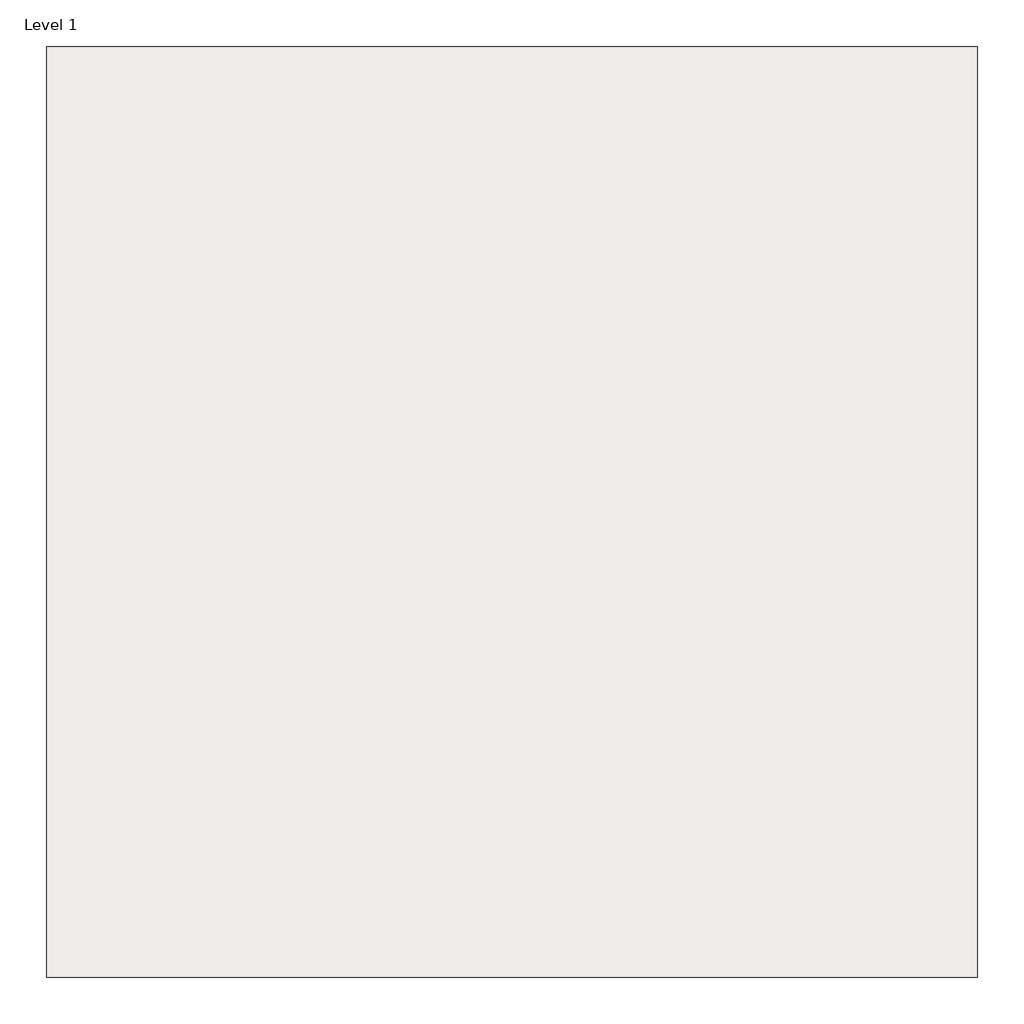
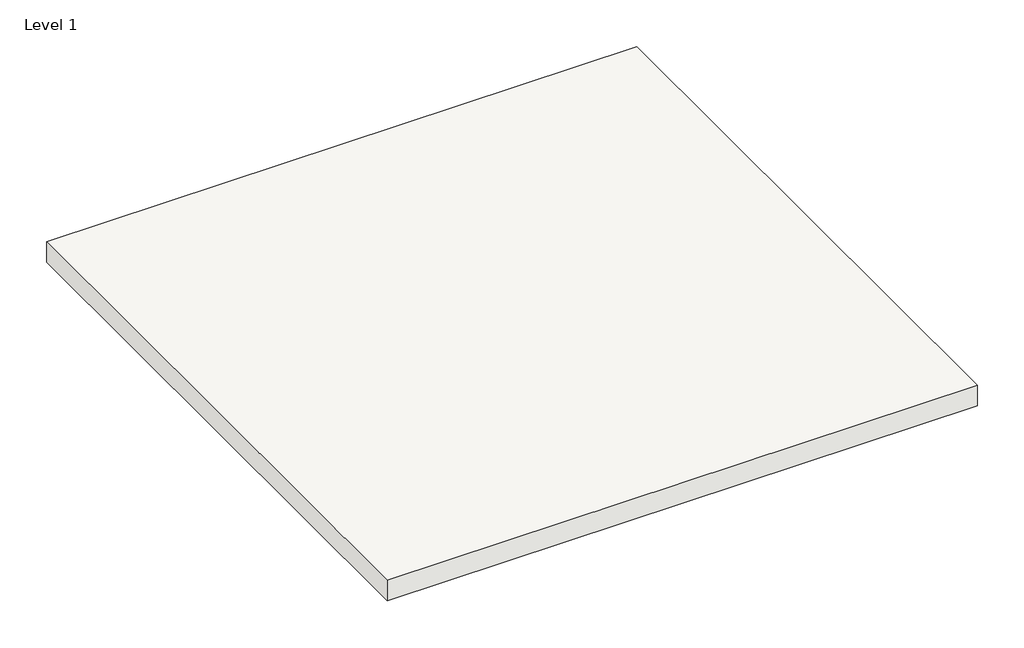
# One storey: 1 covering.
"""IFC4 building model written with IfcOpenShell, lengths in millimetres."""

import ifcopenshell
import ifcopenshell.guid

model = None  # the IFC model being written
_history = None  # IfcOwnerHistory: only IFC2X3 demands one
_inside = {}  # id of a spatial element -> (the spatial element, [elements in it])
_under = {}  # id of a project, library or spatial element -> (it, [spatial elements below it])
_declared = {}  # id of a project -> (the project, [libraries it declares])
_typed = {}  # id of a type object -> (the type object, [elements of that type])
_made_of = {}  # id of a material, layer set ... -> (it, [elements and type objects made of it])


def new_model(schema):
    """Start an empty IFC model of exactly this schema.

    Asked for "IFC4X3", IfcOpenShell would pick the latest addendum, in which some entities
    have other attributes; the version numbers below select the first issue.
    IFC2X3 requires an IfcOwnerHistory on every rooted entity: one is made here for all.
    """
    global model, _history
    if schema == "IFC4X3":
        model = ifcopenshell.file(schema_version=(4, 3, 0, 0))
    else:
        model = ifcopenshell.file(schema=schema)
    _inside.clear()
    _under.clear()
    _declared.clear()
    _typed.clear()
    _made_of.clear()
    _history = None
    if model.schema == "IFC2X3":
        org = make("IfcOrganization", Name="unknown")
        user = make(
            "IfcPersonAndOrganization",
            ThePerson=make("IfcPerson", FamilyName="unknown"),
            TheOrganization=org,
        )
        app = make(
            "IfcApplication",
            ApplicationDeveloper=org,
            Version="unknown",
            ApplicationFullName="unknown",
            ApplicationIdentifier="unknown",
        )
        _history = make(
            "IfcOwnerHistory",
            OwningUser=user,
            OwningApplication=app,
            ChangeAction="ADDED",
            CreationDate=0,
        )
    return model


def make(cls, **values):
    """One entity of the class cls with the attributes given. An attribute that is None is left unset."""
    return model.create_entity(
        cls, **{name: value for name, value in values.items() if value is not None}
    )


def rooted(cls, **values):
    """An entity with a GlobalId (a new one), such as an element, a storey or a relation."""
    return make(cls, GlobalId=ifcopenshell.guid.new(), OwnerHistory=_history, **values)


def si_unit(unit_type, name, prefix=None):
    """IfcSIUnit, for example si_unit("LENGTHUNIT", "METRE", prefix="MILLI")."""
    return make("IfcSIUnit", UnitType=unit_type, Prefix=prefix, Name=name)


def assignment(units):
    """IfcUnitAssignment: the units of a project."""
    return None if units is None else make("IfcUnitAssignment", Units=units)


def point(xyz):
    """IfcCartesianPoint."""
    return None if xyz is None else make("IfcCartesianPoint", Coordinates=xyz)


def direction(xyz):
    """IfcDirection."""
    return None if xyz is None else make("IfcDirection", DirectionRatios=xyz)


def frame(location, z_axis=None, x_axis=None):
    """IfcAxis2Placement3D, a coordinate frame: its origin and axes. An axis left out is left unset."""
    return make(
        "IfcAxis2Placement3D",
        Location=point(location),
        Axis=direction(z_axis),
        RefDirection=direction(x_axis),
    )


def origin():
    """The frame at (0, 0, 0) with its axes left unset."""
    return frame((0.0, 0.0, 0.0))


def origin_with_axes():
    """The frame at (0, 0, 0) with the z axis (0, 0, 1) and the x axis (1, 0, 0) written out."""
    return frame((0.0, 0.0, 0.0), z_axis=(0.0, 0.0, 1.0), x_axis=(1.0, 0.0, 0.0))


def place(relative_to, where):
    """IfcLocalPlacement: puts the frame where relative to a parent placement (None: the world)."""
    return make(
        "IfcLocalPlacement", PlacementRelTo=relative_to, RelativePlacement=where
    )


def context(
    kind, dimensions, precision=None, world=None, true_north=None, identifier=None
):
    """IfcGeometricRepresentationContext, for example the 3D "Model" context."""
    return make(
        "IfcGeometricRepresentationContext",
        ContextIdentifier=identifier,
        ContextType=kind,
        CoordinateSpaceDimension=dimensions,
        Precision=precision,
        WorldCoordinateSystem=world,
        TrueNorth=true_north,
    )


def project(units=None, contexts=None):
    """IfcProject with its units and contexts."""
    return rooted(
        "IfcProject",
        Name="project",
        RepresentationContexts=contexts,
        UnitsInContext=assignment(units),
    )


def spatial(cls, under=None, at=None, **own):
    """A site, building, storey or space (cls), placed at a placement, below another one or the project."""
    s = rooted(cls, ObjectPlacement=at, **own)
    if under is not None:
        _under.setdefault(under.id(), (under, []))[1].append(s)
    return s


def polyline(points):
    """IfcPolyline through the points."""
    return make("IfcPolyline", Points=[point(p) for p in points])


def outline(outer, holes=None, kind="AREA"):
    """IfcArbitraryClosedProfileDef: a profile drawn as a closed curve; with holes, ...WithVoids."""
    if holes is None:
        return make("IfcArbitraryClosedProfileDef", ProfileType=kind, OuterCurve=outer)
    return make(
        "IfcArbitraryProfileDefWithVoids",
        ProfileType=kind,
        OuterCurve=outer,
        InnerCurves=holes,
    )


def extrude(swept, where, along, depth):
    """IfcExtrudedAreaSolid: the profile swept, set in the frame where, extruded along a direction by depth."""
    return make(
        "IfcExtrudedAreaSolid",
        SweptArea=swept,
        Position=where,
        ExtrudedDirection=direction(along),
        Depth=depth,
    )


def shape(context_of_items, identifier, shape_type, items):
    """IfcShapeRepresentation: the items that make up one representation, for example the "Body"."""
    return make(
        "IfcShapeRepresentation",
        ContextOfItems=context_of_items,
        RepresentationIdentifier=identifier,
        RepresentationType=shape_type,
        Items=items,
    )


def made_of(thing, what):
    """Note that an element or type object is made of a material, layer set ...; save() writes the relation."""
    if what is not None:
        _made_of.setdefault(what.id(), (what, []))[1].append(thing)
    return thing


def element(
    cls,
    number,
    at=None,
    inside=None,
    cuts=None,
    type_object=None,
    material=None,
    context=None,
    identifier="Body",
    shape_type=None,
    held_by="IfcProductDefinitionShape",
    body=None,
    shapes=None,
    **own,
):
    """One element of the class cls, such as IfcWall. Its Tag is "e" and its number.

    at: its placement. inside: the storey or other place that contains it. cuts: it is an
    opening in that element (IfcRelVoidsElement). A single representation is given by context,
    identifier, shape_type and body (its items); several are given by shapes. held_by: the class
    of the entity that holds the representations. save() writes the other relations.
    """
    e = rooted(cls, Tag="e%d" % number, ObjectPlacement=at, **own)
    if body is not None:
        shapes = [shape(context, identifier, shape_type, body)]
    if shapes is not None:
        e.Representation = make(held_by, Representations=shapes)
    if inside is not None:
        _inside.setdefault(inside.id(), (inside, []))[1].append(e)
    if cuts is not None:
        rooted(
            "IfcRelVoidsElement", RelatingBuildingElement=cuts, RelatedOpeningElement=e
        )
    if type_object is not None:
        _typed.setdefault(type_object.id(), (type_object, []))[1].append(e)
    return made_of(e, material)


def aggregate(whole, parts):
    """IfcRelAggregates: a whole, such as a stair, and the parts it consists of."""
    return rooted("IfcRelAggregates", RelatingObject=whole, RelatedObjects=parts)


def save(model, path):
    """Write the relations noted so far, then the file.

    IfcRelAggregates (storeys below a building ...), IfcRelContainedInSpatialStructure (elements
    in a storey), IfcRelDefinesByType, IfcRelAssociatesMaterial and IfcRelDeclares: one each for
    every whole, place, type object, material and project.
    """
    for whole, parts in _under.values():
        aggregate(whole, parts)
    for where, things in _inside.values():
        rooted(
            "IfcRelContainedInSpatialStructure",
            RelatedElements=things,
            RelatingStructure=where,
        )
    for kind, things in _typed.values():
        rooted("IfcRelDefinesByType", RelatedObjects=things, RelatingType=kind)
    for what, things in _made_of.values():
        rooted("IfcRelAssociatesMaterial", RelatedObjects=things, RelatingMaterial=what)
    for by, libraries in _declared.values():
        rooted("IfcRelDeclares", RelatingContext=by, RelatedDefinitions=libraries)
    model.write(path)


model = new_model("IFC4")

# Units and contexts
model_context = context("Model", 3, world=origin())
ifc_project = project(units=[si_unit("LENGTHUNIT", "METRE", prefix="MILLI")], contexts=[model_context])

# Site, building, storey
site = spatial("IfcSite", under=ifc_project)
building = spatial("IfcBuilding", under=site)
storey = spatial("IfcBuildingStorey", under=building, Name="Level 1", Elevation=0.0)

# Covering
placement = place(None, origin())
element("IfcCovering", 1, ObjectType="RIGIPS - 4.10.29 - EI 120, REI 120 - 30dB", at=placement, inside=storey, context=model_context, shape_type="SweptSolid", body=[
    extrude(outline(polyline([(-1500.0, 1500.0), (1500.0, 1500.0), (1500.0, -1500.0), (-1500.0, -1500.0), (-1500.0, 1500.0)])), origin_with_axes(), (0.0, 0.0, 1.0), 110.0),
])

save(model, "model.ifc")
